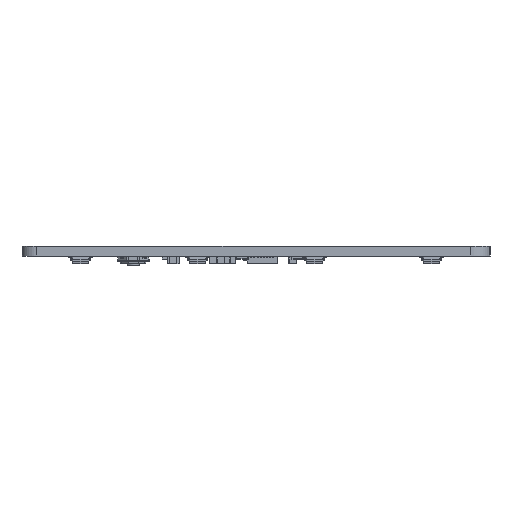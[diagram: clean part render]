
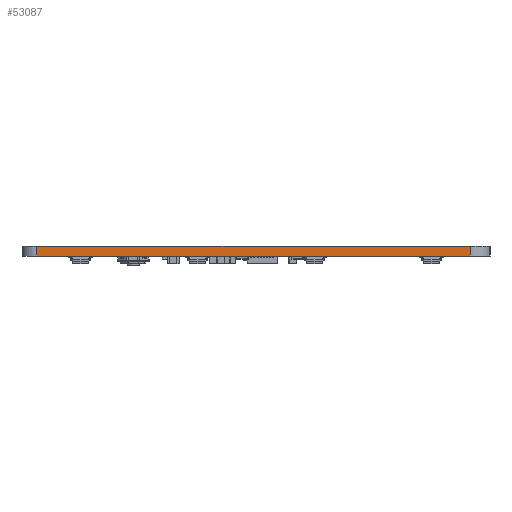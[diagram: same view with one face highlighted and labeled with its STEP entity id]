
A CAD part, left-side view. The second image highlights one B-rep face of the part: STEP entity #53087.
In plain terms, the highlighted planar face has unit normal (-1, 0, 0).
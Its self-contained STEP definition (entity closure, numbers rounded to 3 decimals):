
#52904 = CYLINDRICAL_SURFACE('',#52905,2.381);
#52905 = AXIS2_PLACEMENT_3D('',#52906,#52907,#52908);
#52906 = CARTESIAN_POINT('',(18.256,-50.006,0.));
#52907 = DIRECTION('',(-0.,-0.,-1.));
#52908 = DIRECTION('',(1.,0.,-0.));
#52929 = VERTEX_POINT('',#52930);
#52930 = CARTESIAN_POINT('',(15.875,-50.006,1.6));
#52945 = PLANE('',#52946);
#52946 = AXIS2_PLACEMENT_3D('',#52947,#52948,#52949);
#52947 = CARTESIAN_POINT('',(149.193,-85.609,1.6));
#52948 = DIRECTION('',(0.,0.,1.));
#52949 = DIRECTION('',(1.,0.,-0.));
#52957 = EDGE_CURVE('',#52958,#52929,#52960,.T.);
#52958 = VERTEX_POINT('',#52959);
#52959 = CARTESIAN_POINT('',(15.875,-50.006,0.));
#52960 = SURFACE_CURVE('',#52961,(#52965,#52972),.PCURVE_S1.);
#52961 = LINE('',#52962,#52963);
#52962 = CARTESIAN_POINT('',(15.875,-50.006,0.));
#52963 = VECTOR('',#52964,1.);
#52964 = DIRECTION('',(0.,0.,1.));
#52965 = PCURVE('',#52904,#52966);
#52966 = DEFINITIONAL_REPRESENTATION('',(#52967),#52971);
#52967 = LINE('',#52968,#52969);
#52968 = CARTESIAN_POINT('',(-3.142,0.));
#52969 = VECTOR('',#52970,1.);
#52970 = DIRECTION('',(-0.,-1.));
#52971 = ( GEOMETRIC_REPRESENTATION_CONTEXT(2) 
PARAMETRIC_REPRESENTATION_CONTEXT() REPRESENTATION_CONTEXT('2D SPACE',''
  ) );
#52972 = PCURVE('',#52973,#52978);
#52973 = PLANE('',#52974);
#52974 = AXIS2_PLACEMENT_3D('',#52975,#52976,#52977);
#52975 = CARTESIAN_POINT('',(15.875,-50.006,0.));
#52976 = DIRECTION('',(1.,0.,-0.));
#52977 = DIRECTION('',(0.,-1.,0.));
#52978 = DEFINITIONAL_REPRESENTATION('',(#52979),#52983);
#52979 = LINE('',#52980,#52981);
#52980 = CARTESIAN_POINT('',(0.,0.));
#52981 = VECTOR('',#52982,1.);
#52982 = DIRECTION('',(0.,-1.));
#52983 = ( GEOMETRIC_REPRESENTATION_CONTEXT(2) 
PARAMETRIC_REPRESENTATION_CONTEXT() REPRESENTATION_CONTEXT('2D SPACE',''
  ) );
#53000 = PLANE('',#53001);
#53001 = AXIS2_PLACEMENT_3D('',#53002,#53003,#53004);
#53002 = CARTESIAN_POINT('',(149.193,-85.609,0.));
#53003 = DIRECTION('',(0.,0.,1.));
#53004 = DIRECTION('',(1.,0.,-0.));
#53087 = ADVANCED_FACE('',(#53088),#52973,.F.);
#53088 = FACE_BOUND('',#53089,.F.);
#53089 = EDGE_LOOP('',(#53090,#53091,#53114,#53142));
#53090 = ORIENTED_EDGE('',*,*,#52957,.T.);
#53091 = ORIENTED_EDGE('',*,*,#53092,.T.);
#53092 = EDGE_CURVE('',#52929,#53093,#53095,.T.);
#53093 = VERTEX_POINT('',#53094);
#53094 = CARTESIAN_POINT('',(15.875,-120.65,1.6));
#53095 = SURFACE_CURVE('',#53096,(#53100,#53107),.PCURVE_S1.);
#53096 = LINE('',#53097,#53098);
#53097 = CARTESIAN_POINT('',(15.875,-50.006,1.6));
#53098 = VECTOR('',#53099,1.);
#53099 = DIRECTION('',(0.,-1.,0.));
#53100 = PCURVE('',#52973,#53101);
#53101 = DEFINITIONAL_REPRESENTATION('',(#53102),#53106);
#53102 = LINE('',#53103,#53104);
#53103 = CARTESIAN_POINT('',(0.,-1.6));
#53104 = VECTOR('',#53105,1.);
#53105 = DIRECTION('',(1.,0.));
#53106 = ( GEOMETRIC_REPRESENTATION_CONTEXT(2) 
PARAMETRIC_REPRESENTATION_CONTEXT() REPRESENTATION_CONTEXT('2D SPACE',''
  ) );
#53107 = PCURVE('',#52945,#53108);
#53108 = DEFINITIONAL_REPRESENTATION('',(#53109),#53113);
#53109 = LINE('',#53110,#53111);
#53110 = CARTESIAN_POINT('',(-133.318,35.603));
#53111 = VECTOR('',#53112,1.);
#53112 = DIRECTION('',(0.,-1.));
#53113 = ( GEOMETRIC_REPRESENTATION_CONTEXT(2) 
PARAMETRIC_REPRESENTATION_CONTEXT() REPRESENTATION_CONTEXT('2D SPACE',''
  ) );
#53114 = ORIENTED_EDGE('',*,*,#53115,.F.);
#53115 = EDGE_CURVE('',#53116,#53093,#53118,.T.);
#53116 = VERTEX_POINT('',#53117);
#53117 = CARTESIAN_POINT('',(15.875,-120.65,0.));
#53118 = SURFACE_CURVE('',#53119,(#53123,#53130),.PCURVE_S1.);
#53119 = LINE('',#53120,#53121);
#53120 = CARTESIAN_POINT('',(15.875,-120.65,0.));
#53121 = VECTOR('',#53122,1.);
#53122 = DIRECTION('',(0.,0.,1.));
#53123 = PCURVE('',#52973,#53124);
#53124 = DEFINITIONAL_REPRESENTATION('',(#53125),#53129);
#53125 = LINE('',#53126,#53127);
#53126 = CARTESIAN_POINT('',(70.644,0.));
#53127 = VECTOR('',#53128,1.);
#53128 = DIRECTION('',(0.,-1.));
#53129 = ( GEOMETRIC_REPRESENTATION_CONTEXT(2) 
PARAMETRIC_REPRESENTATION_CONTEXT() REPRESENTATION_CONTEXT('2D SPACE',''
  ) );
#53130 = PCURVE('',#53131,#53136);
#53131 = CYLINDRICAL_SURFACE('',#53132,3.175);
#53132 = AXIS2_PLACEMENT_3D('',#53133,#53134,#53135);
#53133 = CARTESIAN_POINT('',(19.05,-120.65,0.));
#53134 = DIRECTION('',(-0.,-0.,-1.));
#53135 = DIRECTION('',(1.,0.,-0.));
#53136 = DEFINITIONAL_REPRESENTATION('',(#53137),#53141);
#53137 = LINE('',#53138,#53139);
#53138 = CARTESIAN_POINT('',(-3.142,0.));
#53139 = VECTOR('',#53140,1.);
#53140 = DIRECTION('',(-0.,-1.));
#53141 = ( GEOMETRIC_REPRESENTATION_CONTEXT(2) 
PARAMETRIC_REPRESENTATION_CONTEXT() REPRESENTATION_CONTEXT('2D SPACE',''
  ) );
#53142 = ORIENTED_EDGE('',*,*,#53143,.F.);
#53143 = EDGE_CURVE('',#52958,#53116,#53144,.T.);
#53144 = SURFACE_CURVE('',#53145,(#53149,#53156),.PCURVE_S1.);
#53145 = LINE('',#53146,#53147);
#53146 = CARTESIAN_POINT('',(15.875,-50.006,0.));
#53147 = VECTOR('',#53148,1.);
#53148 = DIRECTION('',(0.,-1.,0.));
#53149 = PCURVE('',#52973,#53150);
#53150 = DEFINITIONAL_REPRESENTATION('',(#53151),#53155);
#53151 = LINE('',#53152,#53153);
#53152 = CARTESIAN_POINT('',(0.,0.));
#53153 = VECTOR('',#53154,1.);
#53154 = DIRECTION('',(1.,0.));
#53155 = ( GEOMETRIC_REPRESENTATION_CONTEXT(2) 
PARAMETRIC_REPRESENTATION_CONTEXT() REPRESENTATION_CONTEXT('2D SPACE',''
  ) );
#53156 = PCURVE('',#53000,#53157);
#53157 = DEFINITIONAL_REPRESENTATION('',(#53158),#53162);
#53158 = LINE('',#53159,#53160);
#53159 = CARTESIAN_POINT('',(-133.318,35.603));
#53160 = VECTOR('',#53161,1.);
#53161 = DIRECTION('',(0.,-1.));
#53162 = ( GEOMETRIC_REPRESENTATION_CONTEXT(2) 
PARAMETRIC_REPRESENTATION_CONTEXT() REPRESENTATION_CONTEXT('2D SPACE',''
  ) );
